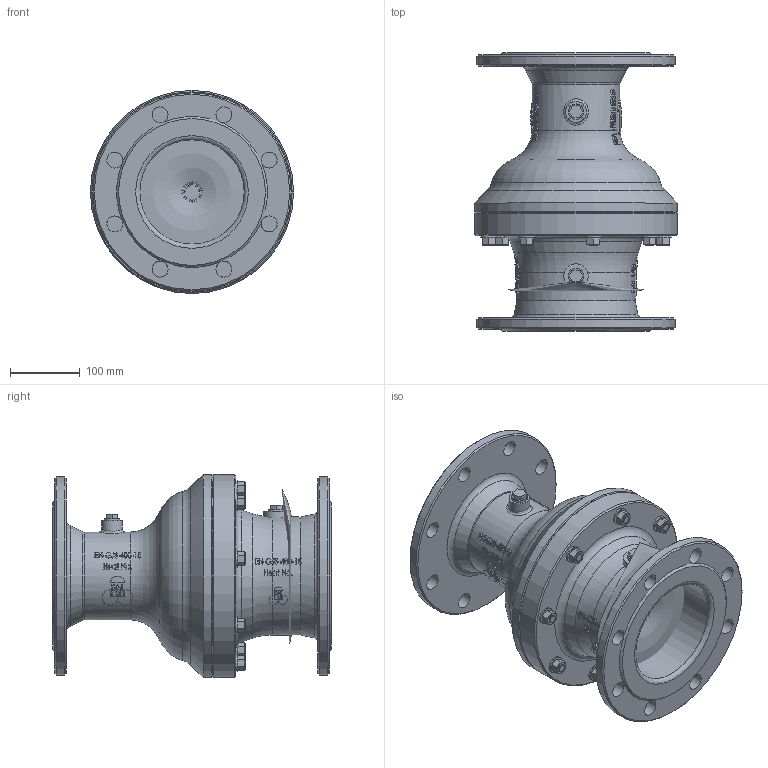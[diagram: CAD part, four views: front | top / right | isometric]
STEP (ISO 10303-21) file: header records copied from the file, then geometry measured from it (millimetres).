
FILE_DESCRIPTION(/* description */ ('PSA Hydro-Stop DN150 PN16'),/* implementation_level */ '2;1');
FILE_NAME(/* name */ 'PSA_Hydro-Stop_DN150',/* time_stamp */ '2024-10-08T17:17:14+02:00',/* author */ ('Christin-Michelle Fremgen'),/* organization */ ('PSA Wasserarmaturen GmbH'),/* preprocessor_version */ 'ST-DEVELOPER v18.104',/* originating_system */ 'Solid Edge',/* authorisation */ 'Unknown');
FILE_SCHEMA (('AUTOMOTIVE_DESIGN {1 0 10303 214 3 1 1}'));
Products named in the file (1): PSA_Hydro-Stop_DN150
Bounding box: 292 x 400 x 292 mm (x, y, z)
Volume: 11080220.5 mm3; surface area: 1040644 mm2
Topology: 2 solids, 150 shells, 2289 faces, 5725 edges, 3635 vertices
Faces by surface type: plane 719, cone 638, cylinder 442, bspline 397, torus 90, sphere 3
Full cylindrical faces by diameter (mm): 10.072 x18, 10.2 x103, 12 x126, 13 x8, 13.98 x2, 14 x16, 14.95 x2, 16.66 x2, 18 x10, 22 x2, 23 x18, 24 x8, 30 x1, 35 x1, 112 x1, 112.5 x1, 125 x1, 126.5 x1, 136 x1, 150 x1, 170 x1, 277 x1, 280 x1, 281 x1, 285 x2, 292 x2
Entity records: 89872 total; most frequent: CARTESIAN_POINT 28186, DIRECTION 8629, ORIENTED_EDGE 8492, EDGE_CURVE 4246, AXIS2_PLACEMENT_3D 3597, FACE_BOUND 3481, EDGE_LOOP 3469, VERTEX_POINT 3157
